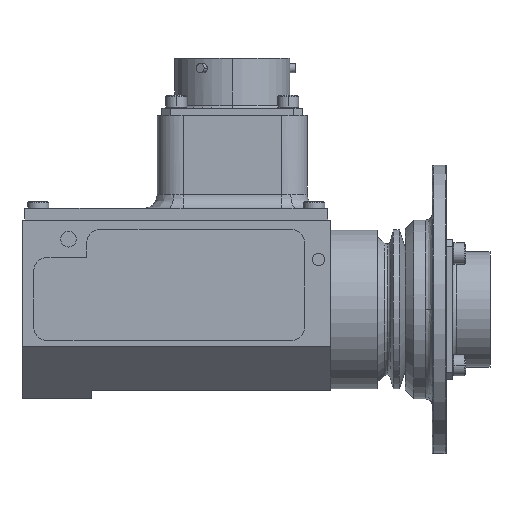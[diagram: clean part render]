
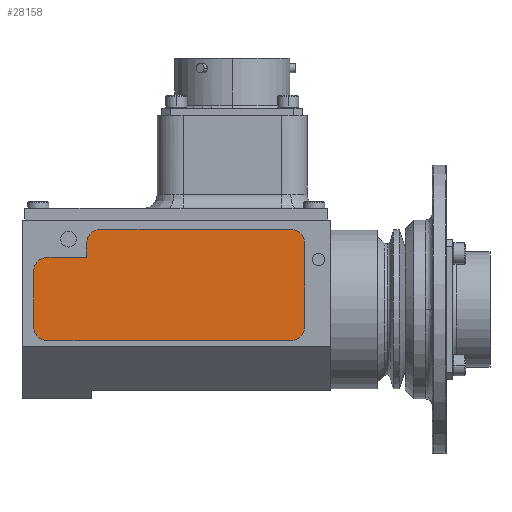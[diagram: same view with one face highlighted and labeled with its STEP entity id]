
A CAD part, left-side view. The second image highlights one B-rep face of the part: STEP entity #28158.
In plain terms, the highlighted planar face has unit normal (-1, 0, 0).
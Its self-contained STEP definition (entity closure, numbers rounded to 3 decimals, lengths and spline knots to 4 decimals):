
#774 = LINE ( 'NONE', #27168, #50337 ) ;
#922 = VERTEX_POINT ( 'NONE', #42573 ) ;
#1994 = DIRECTION ( 'NONE',  ( 0., -1., 0. ) ) ;
#2022 = AXIS2_PLACEMENT_3D ( 'NONE', #48358, #24908, #5421 ) ;
#2067 = CARTESIAN_POINT ( 'NONE',  ( -0.765, 3.1175, 0.452 ) ) ;
#2427 = DIRECTION ( 'NONE',  ( 0., -1., 0. ) ) ;
#2636 = EDGE_LOOP ( 'NONE', ( #42794, #29736, #18406, #12943, #15755, #23409, #44038, #22735, #33335, #25415, #12133 ) ) ;
#3897 = CIRCLE ( 'NONE', #32105, 0.125 ) ;
#4495 = CARTESIAN_POINT ( 'NONE',  ( -0.765, 1.3505, 0.695 ) ) ;
#4619 = CIRCLE ( 'NONE', #40862, 0.125 ) ;
#5421 = DIRECTION ( 'NONE',  ( 0., -1., 0. ) ) ;
#5977 = CARTESIAN_POINT ( 'NONE',  ( -0.765, 1.3505, 0.695 ) ) ;
#7014 = DIRECTION ( 'NONE',  ( 0., 0., -1. ) ) ;
#7691 = DIRECTION ( 'NONE',  ( 0., -1., 0. ) ) ;
#8239 = EDGE_CURVE ( 'NONE', #39492, #18624, #3897, .T. ) ;
#8835 = EDGE_CURVE ( 'NONE', #46136, #17155, #9926, .T. ) ;
#9520 = EDGE_CURVE ( 'NONE', #37444, #20743, #47919, .T. ) ;
#9926 = LINE ( 'NONE', #5977, #12406 ) ;
#10426 = DIRECTION ( 'NONE',  ( 1., 0., 0. ) ) ;
#10737 = CARTESIAN_POINT ( 'NONE',  ( -0.765, 3.5765, -0.146 ) ) ;
#10865 = CARTESIAN_POINT ( 'NONE',  ( -0.765, 1.3505, -0.271 ) ) ;
#12024 = CARTESIAN_POINT ( 'NONE',  ( -0.765, -1.1158, -0.3169 ) ) ;
#12119 = AXIS2_PLACEMENT_3D ( 'NONE', #33911, #10426, #7691 ) ;
#12133 = ORIENTED_EDGE ( 'NONE', *, *, #19006, .F. ) ;
#12298 = DIRECTION ( 'NONE',  ( 0., 0., 1. ) ) ;
#12406 = VECTOR ( 'NONE', #21672, 39.3701 ) ;
#12943 = ORIENTED_EDGE ( 'NONE', *, *, #35429, .F. ) ;
#13887 = DIRECTION ( 'NONE',  ( 1., 0., 0. ) ) ;
#15755 = ORIENTED_EDGE ( 'NONE', *, *, #27834, .F. ) ;
#16108 = VERTEX_POINT ( 'NONE', #50802 ) ;
#16335 = DIRECTION ( 'NONE',  ( 1., 0., 0. ) ) ;
#17155 = VERTEX_POINT ( 'NONE', #4495 ) ;
#18406 = ORIENTED_EDGE ( 'NONE', *, *, #8239, .F. ) ;
#18624 = VERTEX_POINT ( 'NONE', #10737 ) ;
#19006 = EDGE_CURVE ( 'NONE', #32364, #37444, #20203, .T. ) ;
#19657 = CARTESIAN_POINT ( 'NONE',  ( -0.765, 3.1175, 0.57 ) ) ;
#20026 = CARTESIAN_POINT ( 'NONE',  ( -0.765, 3.4515, -0.271 ) ) ;
#20203 = LINE ( 'NONE', #36745, #22671 ) ;
#20523 = CARTESIAN_POINT ( 'NONE',  ( -0.765, 2.9925, 0.695 ) ) ;
#20701 = AXIS2_PLACEMENT_3D ( 'NONE', #41278, #13887, #2427 ) ;
#20743 = VERTEX_POINT ( 'NONE', #33568 ) ;
#21672 = DIRECTION ( 'NONE',  ( 0., -1., 0. ) ) ;
#21930 = EDGE_CURVE ( 'NONE', #27836, #32364, #4619, .T. ) ;
#22671 = VECTOR ( 'NONE', #1994, 39.3701 ) ;
#22735 = ORIENTED_EDGE ( 'NONE', *, *, #8835, .F. ) ;
#23409 = ORIENTED_EDGE ( 'NONE', *, *, #36747, .F. ) ;
#23801 = CARTESIAN_POINT ( 'NONE',  ( -0.765, 3.4515, 0.452 ) ) ;
#23850 = DIRECTION ( 'NONE',  ( 0., -1., 0. ) ) ;
#24672 = LINE ( 'NONE', #35143, #30811 ) ;
#24908 = DIRECTION ( 'NONE',  ( 1., 0., 0. ) ) ;
#25094 = CIRCLE ( 'NONE', #2022, 0.125 ) ;
#25415 = ORIENTED_EDGE ( 'NONE', *, *, #9520, .F. ) ;
#27168 = CARTESIAN_POINT ( 'NONE',  ( -0.765, 1.3505, -0.271 ) ) ;
#27428 = DIRECTION ( 'NONE',  ( 0., 0., 1. ) ) ;
#27834 = EDGE_CURVE ( 'NONE', #922, #47072, #25094, .T. ) ;
#27836 = VERTEX_POINT ( 'NONE', #40330 ) ;
#28158 = ADVANCED_FACE ( 'NONE', ( #37945 ), #47781, .T. ) ;
#28907 = AXIS2_PLACEMENT_3D ( 'NONE', #12024, #47448, #47965 ) ;
#29736 = ORIENTED_EDGE ( 'NONE', *, *, #45068, .F. ) ;
#30478 = CARTESIAN_POINT ( 'NONE',  ( -0.765, 1.2255, 0.57 ) ) ;
#30652 = CIRCLE ( 'NONE', #12119, 0.125 ) ;
#30811 = VECTOR ( 'NONE', #27428, 39.3701 ) ;
#31288 = VECTOR ( 'NONE', #7014, 39.3701 ) ;
#31900 = LINE ( 'NONE', #30478, #31288 ) ;
#32105 = AXIS2_PLACEMENT_3D ( 'NONE', #39778, #16335, #23850 ) ;
#32364 = VERTEX_POINT ( 'NONE', #23801 ) ;
#33335 = ORIENTED_EDGE ( 'NONE', *, *, #36721, .F. ) ;
#33568 = CARTESIAN_POINT ( 'NONE',  ( -0.765, 3.1175, 0.57 ) ) ;
#33911 = CARTESIAN_POINT ( 'NONE',  ( -0.765, 2.9925, 0.57 ) ) ;
#34656 = CARTESIAN_POINT ( 'NONE',  ( -0.765, 3.4515, 0.327 ) ) ;
#35143 = CARTESIAN_POINT ( 'NONE',  ( -0.765, 3.5765, 0.327 ) ) ;
#35429 = EDGE_CURVE ( 'NONE', #47072, #39492, #774, .T. ) ;
#35509 = CIRCLE ( 'NONE', #20701, 0.125 ) ;
#36721 = EDGE_CURVE ( 'NONE', #20743, #46136, #30652, .T. ) ;
#36745 = CARTESIAN_POINT ( 'NONE',  ( -0.765, 3.1175, 0.452 ) ) ;
#36747 = EDGE_CURVE ( 'NONE', #16108, #922, #31900, .T. ) ;
#36886 = VECTOR ( 'NONE', #12298, 39.3701 ) ;
#37444 = VERTEX_POINT ( 'NONE', #2067 ) ;
#37945 = FACE_OUTER_BOUND ( 'NONE', #2636, .T. ) ;
#39492 = VERTEX_POINT ( 'NONE', #20026 ) ;
#39778 = CARTESIAN_POINT ( 'NONE',  ( -0.765, 3.4515, -0.146 ) ) ;
#40330 = CARTESIAN_POINT ( 'NONE',  ( -0.765, 3.5765, 0.327 ) ) ;
#40862 = AXIS2_PLACEMENT_3D ( 'NONE', #34656, #46282, #50389 ) ;
#41278 = CARTESIAN_POINT ( 'NONE',  ( -0.765, 1.3505, 0.57 ) ) ;
#42573 = CARTESIAN_POINT ( 'NONE',  ( -0.765, 1.2255, -0.146 ) ) ;
#42794 = ORIENTED_EDGE ( 'NONE', *, *, #21930, .F. ) ;
#44038 = ORIENTED_EDGE ( 'NONE', *, *, #49983, .F. ) ;
#45068 = EDGE_CURVE ( 'NONE', #18624, #27836, #24672, .T. ) ;
#46136 = VERTEX_POINT ( 'NONE', #20523 ) ;
#46282 = DIRECTION ( 'NONE',  ( 1., 0., 0. ) ) ;
#47072 = VERTEX_POINT ( 'NONE', #10865 ) ;
#47157 = DIRECTION ( 'NONE',  ( 0., 1., 0. ) ) ;
#47448 = DIRECTION ( 'NONE',  ( -1., 0., 0. ) ) ;
#47781 = PLANE ( 'NONE',  #28907 ) ;
#47919 = LINE ( 'NONE', #19657, #36886 ) ;
#47965 = DIRECTION ( 'NONE',  ( 0., -1., 0. ) ) ;
#48358 = CARTESIAN_POINT ( 'NONE',  ( -0.765, 1.3505, -0.146 ) ) ;
#49983 = EDGE_CURVE ( 'NONE', #17155, #16108, #35509, .T. ) ;
#50337 = VECTOR ( 'NONE', #47157, 39.3701 ) ;
#50389 = DIRECTION ( 'NONE',  ( 0., -1., 0. ) ) ;
#50802 = CARTESIAN_POINT ( 'NONE',  ( -0.765, 1.2255, 0.57 ) ) ;
